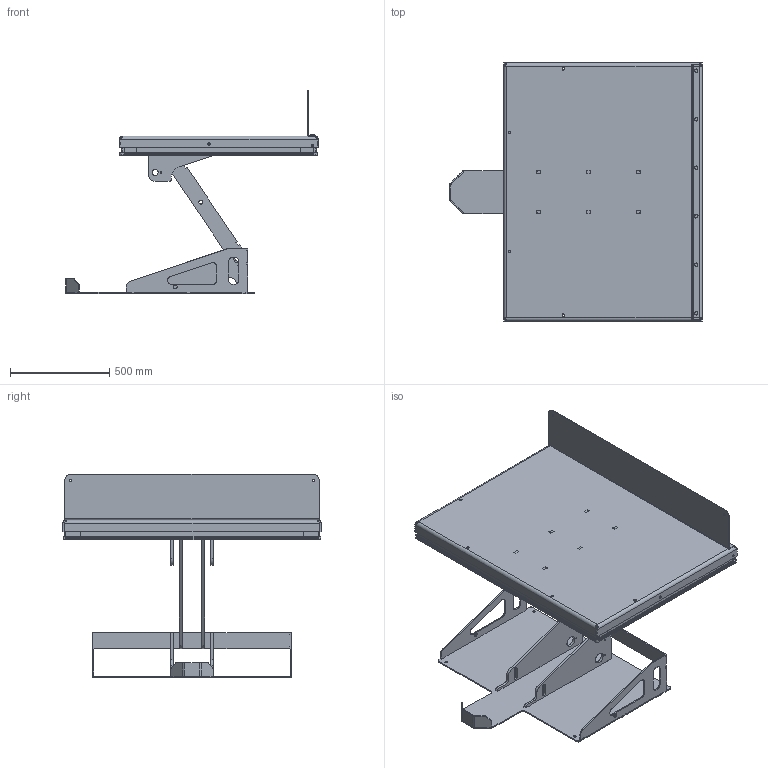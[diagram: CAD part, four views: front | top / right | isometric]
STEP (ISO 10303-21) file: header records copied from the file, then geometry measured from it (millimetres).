
FILE_DESCRIPTION(/* description */ ('Bottenramsplåt'),/* implementation_level */ '2;1');
FILE_NAME(/* name */ '\\EDMOFILE01\Users$\JOHSO\Desktop\34542_Övre.stp',/* time_stamp */ '2015-07-28T08:37:15+02:00',/* author */ ('JOHSO'),/* organization */ (''),/* preprocessor_version */ 'ST-DEVELOPER v15.6',/* originating_system */ 'Autodesk Inventor 2015',/* authorisation */ '');
FILE_SCHEMA (('AUTOMOTIVE_DESIGN { 1 0 10303 214 3 1 1 }'));
Products named in the file (25): 34548; 34427; 34547; 34549; 34509; 34544; 603937; 603938; 42394; 83212; 34543; 34559; 34558; 34546; 83208; 83209; 42289-1273; 42331; 42289-953; 43476; 33990; 42330; 43481; 34512; 34542
Assembly tree (57 placements, depth 3):
  34542
    34544
      34548
      34427
      34547  x2
      34549  x2
      34509
    34543
      603937
      603938  x2
      42394  x2
      83212  x4
    34558
      34559  x2
    34546
    83208  x6
    83209  x6
    34512
      42289-1273  x2
      42331  x4
      42289-953  x2
      43476  x4
      33990  x2
      42330  x4
      43481  x4
Bounding box: 1271 x 1299.66 x 1023 mm (x, y, z)
Volume: 25260097.1 mm3; surface area: 8108101.2 mm2
Topology: 53 solids, 61 shells, 4850 faces, 13314 edges, 8690 vertices
Faces by surface type: plane 2416, cylinder 1672, bspline 502, cone 148, torus 64, sphere 48
Full cylindrical faces by diameter (mm): 0.474 x2, 1 x4, 3 x4, 3.141 x4, 3.2 x4, 4 x16, 4.3 x4, 4.5 x2, 4.9 x2, 5 x4, 5.2 x6, 5.3 x2, 7.4 x16, 7.6 x4, 8 x12, 8.376 x6, 8.5 x4, 10 x12, 10.5 x4, 11 x6, 11.63 x4, 12 x8, 12.5 x12, 13 x4, 14.6 x6, 14.63 x6, 16 x8, 20.5 x2, 30.2 x4
Entity records: 92437 total; most frequent: CARTESIAN_POINT 25005, ORIENTED_EDGE 13994, DIRECTION 13212, EDGE_CURVE 6991, VERTEX_POINT 4669, AXIS2_PLACEMENT_3D 4476, LINE 4260, VECTOR 4260
